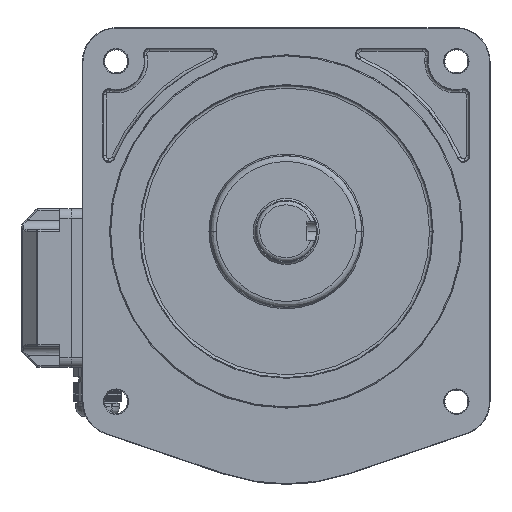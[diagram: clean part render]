
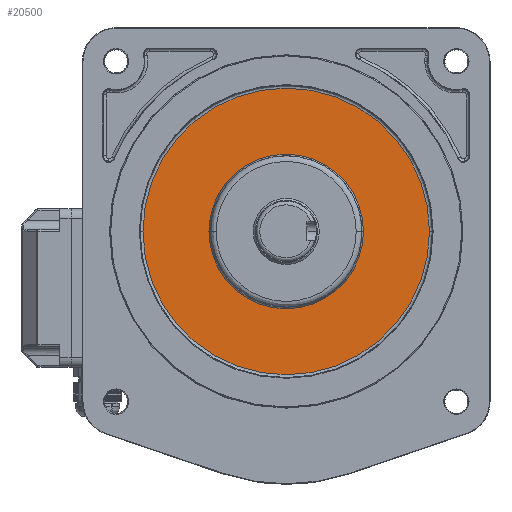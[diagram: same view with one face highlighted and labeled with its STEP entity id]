
A CAD part, top view. The second image highlights one B-rep face of the part: STEP entity #20500.
In plain terms, the highlighted planar face has unit normal (0, 0, 1).
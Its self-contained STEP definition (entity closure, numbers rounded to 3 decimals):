
#18201 = DIRECTION ( 'NONE',  ( 0., 0., 1. ) ) ;
#20500 = ADVANCED_FACE ( 'NONE', ( #85588, #44322 ), #95724, .T. ) ;
#24527 = AXIS2_PLACEMENT_3D ( 'NONE', #94064, #54485, #93232 ) ;
#27243 = EDGE_LOOP ( 'NONE', ( #144326, #43068 ) ) ;
#31812 = ORIENTED_EDGE ( 'NONE', *, *, #101398, .F. ) ;
#34580 = EDGE_CURVE ( 'NONE', #113939, #164034, #59517, .T. ) ;
#37092 = AXIS2_PLACEMENT_3D ( 'NONE', #147149, #18201, #111675 ) ;
#39143 = AXIS2_PLACEMENT_3D ( 'NONE', #125828, #98888, #125006 ) ;
#43068 = ORIENTED_EDGE ( 'NONE', *, *, #150384, .T. ) ;
#43495 = AXIS2_PLACEMENT_3D ( 'NONE', #64480, #51827, #121468 ) ;
#44322 = FACE_BOUND ( 'NONE', #133343, .T. ) ;
#51527 = CIRCLE ( 'NONE', #43495, 75.929 ) ;
#51827 = DIRECTION ( 'NONE',  ( 0., 0., 1. ) ) ;
#54485 = DIRECTION ( 'NONE',  ( 0., 0., 1. ) ) ;
#59517 = CIRCLE ( 'NONE', #24527, 75.929 ) ;
#64480 = CARTESIAN_POINT ( 'NONE',  ( 41.529, -177.513, 176.448 ) ) ;
#65025 = AXIS2_PLACEMENT_3D ( 'NONE', #135361, #159011, #120220 ) ;
#71116 = CARTESIAN_POINT ( 'NONE',  ( 66.993, -177.513, 176.448 ) ) ;
#84587 = VERTEX_POINT ( 'NONE', #71116 ) ;
#85588 = FACE_OUTER_BOUND ( 'NONE', #27243, .T. ) ;
#93232 = DIRECTION ( 'NONE',  ( 1., 0., 0. ) ) ;
#94064 = CARTESIAN_POINT ( 'NONE',  ( 41.529, -177.513, 176.448 ) ) ;
#94245 = CIRCLE ( 'NONE', #65025, 25.464 ) ;
#95724 = PLANE ( 'NONE',  #37092 ) ;
#98888 = DIRECTION ( 'NONE',  ( 0., 0., 1. ) ) ;
#101398 = EDGE_CURVE ( 'NONE', #120432, #84587, #149607, .T. ) ;
#111675 = DIRECTION ( 'NONE',  ( 1., 0., 0. ) ) ;
#112319 = CARTESIAN_POINT ( 'NONE',  ( -34.401, -177.513, 176.448 ) ) ;
#113939 = VERTEX_POINT ( 'NONE', #120489 ) ;
#120220 = DIRECTION ( 'NONE',  ( -1., 0., 0. ) ) ;
#120432 = VERTEX_POINT ( 'NONE', #158735 ) ;
#120489 = CARTESIAN_POINT ( 'NONE',  ( 117.458, -177.513, 176.448 ) ) ;
#121468 = DIRECTION ( 'NONE',  ( 1., 0., 0. ) ) ;
#125006 = DIRECTION ( 'NONE',  ( -1., 0., 0. ) ) ;
#125828 = CARTESIAN_POINT ( 'NONE',  ( 41.529, -177.513, 176.448 ) ) ;
#133343 = EDGE_LOOP ( 'NONE', ( #31812, #144526 ) ) ;
#135361 = CARTESIAN_POINT ( 'NONE',  ( 41.529, -177.513, 176.448 ) ) ;
#144326 = ORIENTED_EDGE ( 'NONE', *, *, #34580, .T. ) ;
#144526 = ORIENTED_EDGE ( 'NONE', *, *, #150160, .F. ) ;
#147149 = CARTESIAN_POINT ( 'NONE',  ( 131.529, -87.513, 176.448 ) ) ;
#149607 = CIRCLE ( 'NONE', #39143, 25.464 ) ;
#150160 = EDGE_CURVE ( 'NONE', #84587, #120432, #94245, .T. ) ;
#150384 = EDGE_CURVE ( 'NONE', #164034, #113939, #51527, .T. ) ;
#158735 = CARTESIAN_POINT ( 'NONE',  ( 16.064, -177.513, 176.448 ) ) ;
#159011 = DIRECTION ( 'NONE',  ( 0., 0., 1. ) ) ;
#164034 = VERTEX_POINT ( 'NONE', #112319 ) ;
